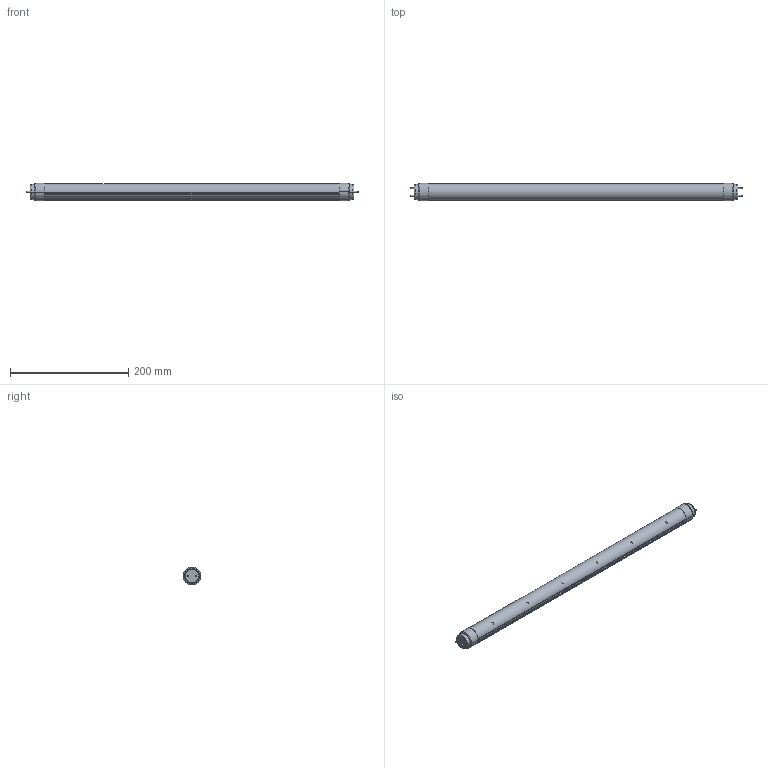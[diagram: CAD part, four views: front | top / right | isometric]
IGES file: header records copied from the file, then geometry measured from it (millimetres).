
Start section: START RECORD GO HERE.
Global section: file name: Final assembly of tubelight.igs; native system: IBM CATIA IGES - CATIA Version 5 Release 19 ; preprocessor: CATIA Version 5 Release 19 ; author: Apple; organization: ANIKET; date: 20151203.223755; units: millimetre
Bounding box: 561.11 x 30.18 x 30.18 mm (x, y, z)
Surface area: 144356.6 mm2 (no closed solid volume)
Topology: 0 solids, 0 shells, 557 faces, 3978 edges, 3944 vertices
Faces by surface type: plane 336, revolution 221
